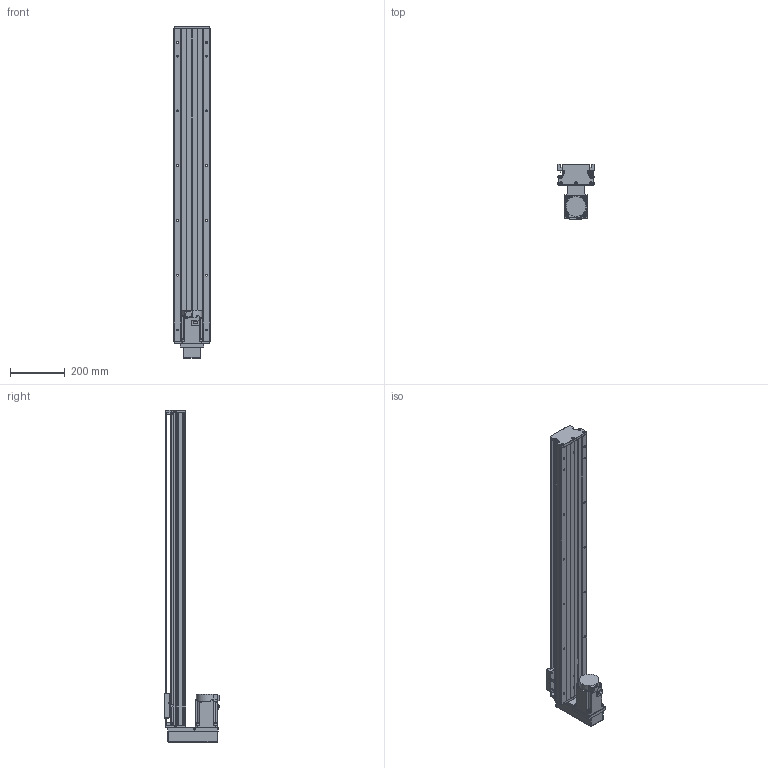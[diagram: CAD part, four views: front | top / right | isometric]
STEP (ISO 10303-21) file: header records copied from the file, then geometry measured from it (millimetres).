
FILE_DESCRIPTION (( 'STEP AP203' ), '1' );
FILE_NAME ('KTH130-1000-BM-M75-C4.step', '2023-06-30T04:36:09', ( '微软用户' ), ( '微软中国' ), 'SwSTEP 2.0', 'SolidWorks 2020', '' );
FILE_SCHEMA (( 'CONFIG_CONTROL_DESIGN' ));
Length unit declared in the file: millimetre
Products named in the file (18): EE_SX911P_R; CTHA86-015-3_CTHA86-015-4; KTH130-004; CTHA60-016; CTHA86-035; KTH130-005; GBT 70.1-M3℅5; KTH130-1000-BM-M75-C4; GB1155-6X6; GBT77-2000 M3×3; GBT70.1 M5℅16; す晦芛蹟隊 M3℅5; GBT 70.2-M3¡Á5_M3¡Á6; GBT 70.3-M3℅8; GTH14-001_1000; CTHA60-017; hg-kn73j_-s100; KTH130-002_KTH130-002
Assembly tree (49 placements, depth 2):
  KTH130-1000-BM-M75-C4
    GTH14-001_1000
    KTH130-002_KTH130-002
    KTH130-004
    KTH130-005
    GB1155-6X6  x2
    GBT70.1 M5℅16  x10
    GBT 70.2-M3¡Á5_M3¡Á6  x4
    CTHA60-017  x3
    EE_SX911P_R  x3
    CTHA60-016  x2
    GBT 70.1-M3℅5  x6
    GBT77-2000 M3×3  x6
    す晦芛蹟隊 M3℅5  x2
    GBT 70.3-M3℅8  x4
    hg-kn73j_-s100
    CTHA86-015-3_CTHA86-015-4
    CTHA86-035
Bounding box: 135 x 202.8 x 1212 mm (x, y, z)
Volume: 7509759.8 mm3; surface area: 1078066.6 mm2
Topology: 52 solids, 52 shells, 2212 faces, 5364 edges, 3359 vertices
Faces by surface type: plane 1212, cylinder 646, cone 238, torus 100, sphere 16
Entity records: 40561 total; most frequent: CARTESIAN_POINT 6822, DIRECTION 6697, ORIENTED_EDGE 6232, EDGE_CURVE 3116, AXIS2_PLACEMENT_3D 2352, VECTOR 1993, LINE 1993, VERTEX_POINT 1993
